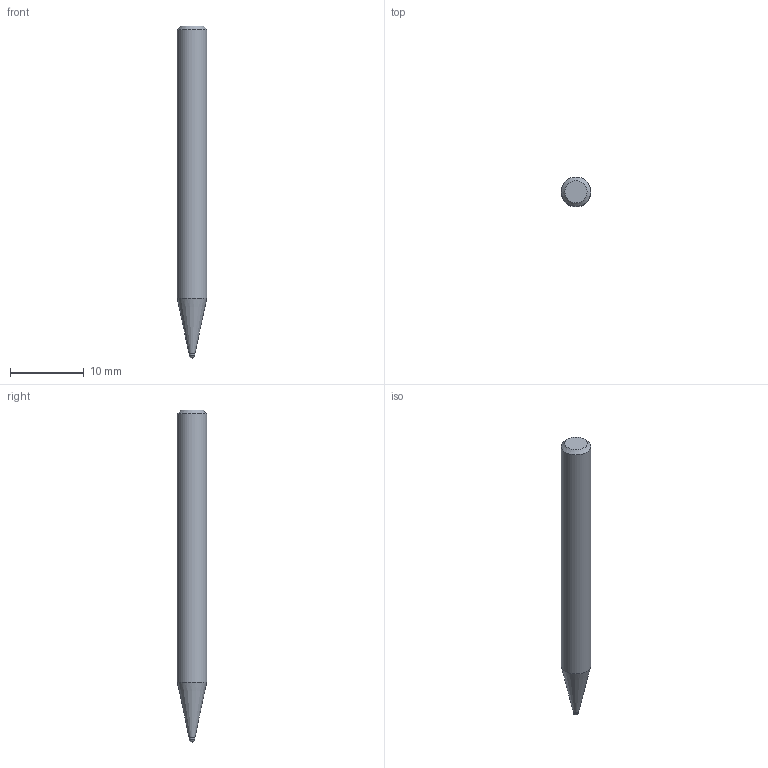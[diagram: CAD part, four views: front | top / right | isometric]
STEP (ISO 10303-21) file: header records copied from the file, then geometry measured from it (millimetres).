
FILE_DESCRIPTION((''),'2;1');
FILE_NAME('C:\Users\nsx150\AppData\Local\Temp\Mastercam 2021\ARV7HD45SN\TEMP.step','2023-06-13T16:34:36',(''),(''),'STEP Write','Mastercam 2021 ... CNC Software, Inc.','');
FILE_SCHEMA(('AUTOMOTIVE_DESIGN'));
Length unit declared in the file: millimetre
Products named in the file (1): None
Bounding box: 4 x 4 x 45 mm (x, y, z)
Volume: 501.2 mm3; surface area: 532.5 mm2
Topology: 2 solids, 2 shells, 8 faces, 12 edges, 7 vertices
Faces by surface type: plane 3, cylinder 2, cone 2, sphere 1
Full cylindrical faces by diameter (mm): 0.8 x1, 4 x1
Entity records: 190 total; most frequent: DIRECTION 32, CARTESIAN_POINT 22, AXIS2_PLACEMENT_3D 16, ORIENTED_EDGE 12, EDGE_LOOP 12, STYLED_ITEM 11, ADVANCED_FACE 8, VERTEX_POINT 6
